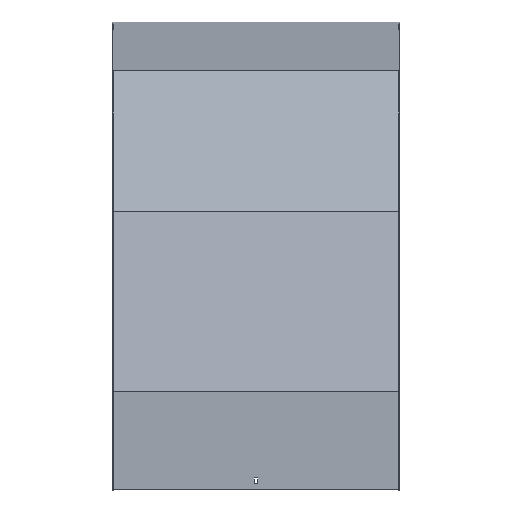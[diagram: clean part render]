
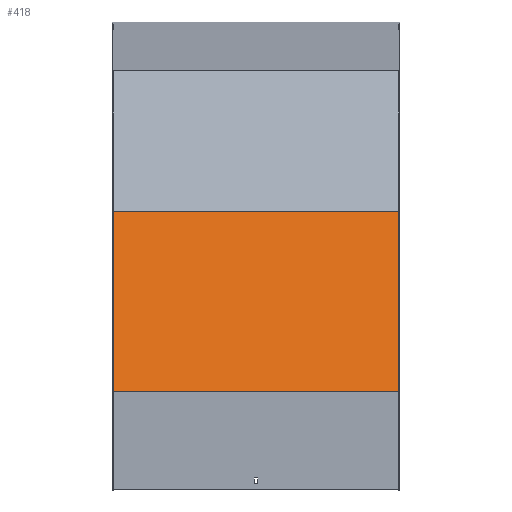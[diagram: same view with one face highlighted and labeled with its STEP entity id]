
A CAD part, top view. The second image highlights one B-rep face of the part: STEP entity #418.
In plain terms, the highlighted planar face has unit normal (0, 0.259, 0.966).
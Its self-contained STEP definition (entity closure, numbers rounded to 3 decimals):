
#11 = ORIENTED_EDGE ( 'NONE', *, *, #651, .F. ) ;
#40 = DIRECTION ( 'NONE',  ( -1., 0., 0. ) ) ;
#51 = CARTESIAN_POINT ( 'NONE',  ( 251.5, -311.92, 735.771 ) ) ;
#66 = LINE ( 'NONE', #72, #445 ) ;
#72 = CARTESIAN_POINT ( 'NONE',  ( 251.5, -627.77, 820.403 ) ) ;
#76 = VECTOR ( 'NONE', #270, 1000. ) ;
#113 = EDGE_CURVE ( 'NONE', #581, #1096, #701, .T. ) ;
#117 = CARTESIAN_POINT ( 'NONE',  ( 251.5, -317.096, 737.158 ) ) ;
#270 = DIRECTION ( 'NONE',  ( 0., -0.966, 0.259 ) ) ;
#283 = FACE_OUTER_BOUND ( 'NONE', #1047, .T. ) ;
#321 = ORIENTED_EDGE ( 'NONE', *, *, #489, .T. ) ;
#372 = EDGE_CURVE ( 'NONE', #1103, #1096, #66, .T. ) ;
#408 = DIRECTION ( 'NONE',  ( -1., 0., 0. ) ) ;
#411 = LINE ( 'NONE', #488, #700 ) ;
#418 = ADVANCED_FACE ( 'NONE', ( #283 ), #634, .F. ) ;
#442 = CARTESIAN_POINT ( 'NONE',  ( -251.5, -317.096, 737.158 ) ) ;
#445 = VECTOR ( 'NONE', #408, 1000. ) ;
#488 = CARTESIAN_POINT ( 'NONE',  ( 251.5, -317.096, 737.158 ) ) ;
#489 = EDGE_CURVE ( 'NONE', #669, #581, #895, .T. ) ;
#580 = DIRECTION ( 'NONE',  ( 0., -0.966, 0.259 ) ) ;
#581 = VERTEX_POINT ( 'NONE', #744 ) ;
#597 = CARTESIAN_POINT ( 'NONE',  ( 251.5, -627.77, 820.403 ) ) ;
#634 = PLANE ( 'NONE',  #774 ) ;
#651 = EDGE_CURVE ( 'NONE', #669, #1103, #411, .T. ) ;
#669 = VERTEX_POINT ( 'NONE', #51 ) ;
#683 = VECTOR ( 'NONE', #40, 1000. ) ;
#700 = VECTOR ( 'NONE', #580, 1000. ) ;
#701 = LINE ( 'NONE', #442, #76 ) ;
#705 = DIRECTION ( 'NONE',  ( 0., -0.259, -0.966 ) ) ;
#744 = CARTESIAN_POINT ( 'NONE',  ( -251.5, -311.92, 735.771 ) ) ;
#774 = AXIS2_PLACEMENT_3D ( 'NONE', #117, #705, #1060 ) ;
#794 = ORIENTED_EDGE ( 'NONE', *, *, #372, .F. ) ;
#811 = CARTESIAN_POINT ( 'NONE',  ( 251.5, -311.92, 735.771 ) ) ;
#853 = CARTESIAN_POINT ( 'NONE',  ( -251.5, -627.77, 820.403 ) ) ;
#895 = LINE ( 'NONE', #811, #683 ) ;
#946 = ORIENTED_EDGE ( 'NONE', *, *, #113, .T. ) ;
#1047 = EDGE_LOOP ( 'NONE', ( #946, #794, #11, #321 ) ) ;
#1060 = DIRECTION ( 'NONE',  ( 0., 0.966, -0.259 ) ) ;
#1096 = VERTEX_POINT ( 'NONE', #853 ) ;
#1103 = VERTEX_POINT ( 'NONE', #597 ) ;
